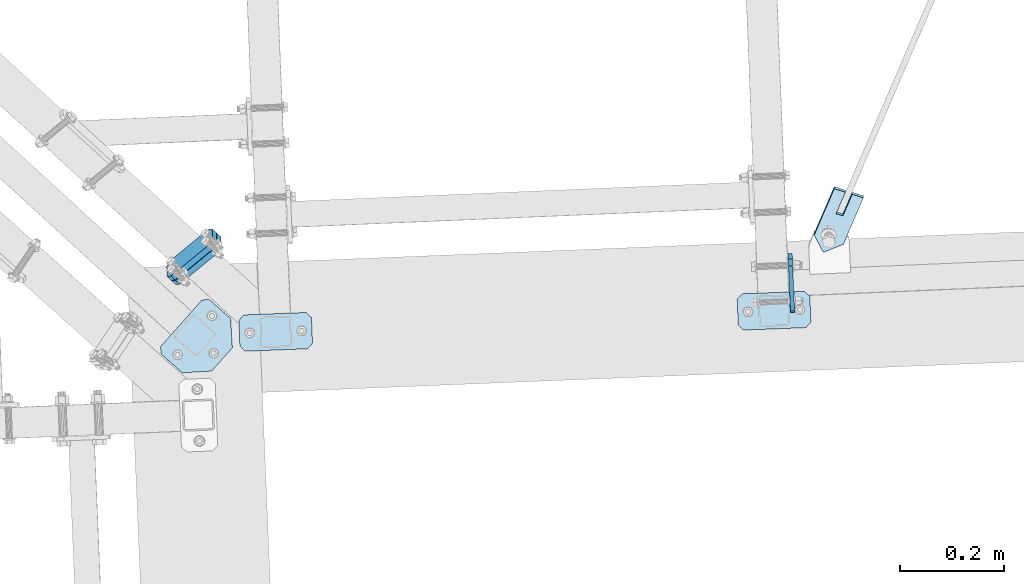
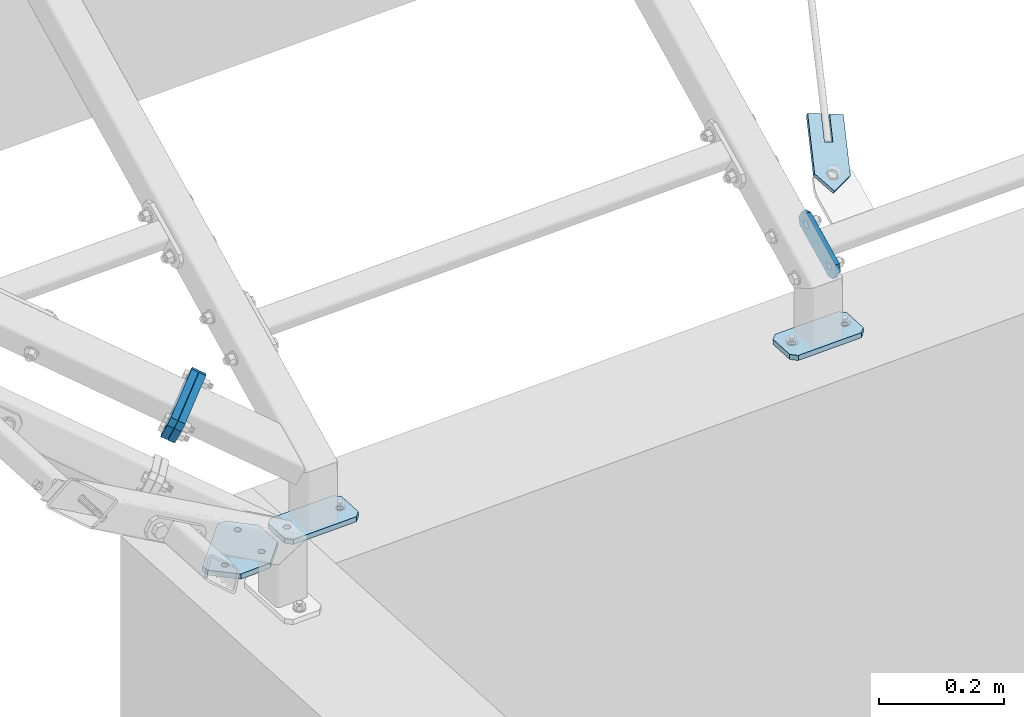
# One storey, part 53 of 288: 7 plates, 45 openings.
"""IFC2X3 building model written with IfcOpenShell, lengths in millimetres."""

from ifc_helpers import new_model, entity, si_unit, converted_unit, point, frame, frame_2d, origin, origin_with_axes, origin_2d_with_axis, place, context, project, spatial, polyline, circle_curve, line_curve, trimmed, segment, composite_curve, circle, outline, extrude, material, layer, layer_set, element, save


model = new_model("IFC2X3")

# Units and contexts
model_context = context("Model", 3, precision=1e-09, world=origin_with_axes())
ifc_project = project(units=[si_unit("LENGTHUNIT", "METRE", prefix="MILLI"), si_unit("AREAUNIT", "SQUARE_METRE"), si_unit("VOLUMEUNIT", "CUBIC_METRE"), converted_unit("PLANEANGLEUNIT", "DEGREE", entity("IfcPlaneAngleMeasure", 0.01745329), si_unit("PLANEANGLEUNIT", "RADIAN"), dimensions=[0, 0, 0, 0, 0, 0, 0])], contexts=[model_context])

# Site, building, storey
site_placement = place(None, origin_with_axes())
site = spatial("IfcSite", under=ifc_project, at=site_placement, Name="Remont ?wietlik?w nad MC w NCPP w Opolu", CompositionType="ELEMENT")
building_placement = place(site_placement, origin_with_axes())
building = spatial("IfcBuilding", under=site, at=building_placement, Name="Konstrukcja 1", CompositionType="ELEMENT")
storey_placement = place(building_placement, origin_with_axes())
storey = spatial("IfcBuildingStorey", under=building, at=storey_placement, Name="Default Storey", CompositionType="ELEMENT", Elevation=0.0)

# Plate, openings
ifc_material = material(Name="S235")
ifc_layer_1 = layer(ifc_material, 8.0)
ifc_layer_set_1 = layer_set([ifc_layer_1], Name="S235")
plate_1_placement = place(None, frame((2474.064790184, 13632.884868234, 93.301197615), z_axis=(-0.999102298, -0.042361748, 0.000284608), x_axis=(0.021561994, -0.502733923, 0.864172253)))
plate_1 = element("IfcPlate", 1, at=plate_1_placement, inside=storey, material=ifc_layer_set_1, Name="-", ObjectType="-", context=model_context, shape_type="SweptSolid", body=[
    extrude(outline(polyline([(0.0, 0.0), (40.0, 0.0), (40.0, 120.0), (0.0, 120.0), (0.0, 0.0)])), origin_with_axes(), (0.0, 0.0, 1.0), 8.0),
])
opening_1_placement = place(plate_1_placement, frame((0.0, 0.0, -0.01), z_axis=(0.0, 0.0, 1.0), x_axis=(1.0, 0.0, 0.0)))
element("IfcOpeningElement", 2, at=opening_1_placement, cuts=plate_1, ObjectType="Opening", context=model_context, shape_type="SweptSolid", body=[
    extrude(outline(composite_curve([segment(trimmed(line_curve((0.0, 0.0), (1.0, 0.0), 10.0), [point((0.0, 0.0))], [point((10.0, 0.0))], True, "CARTESIAN"), True, "CONTINUOUS"), segment(trimmed(circle_curve(frame_2d((10.0, 10.0), x_axis=(-1.0, 0.0)), 10.0), [point((10.0, 0.0))], [point((0.0, 10.0))], False, "CARTESIAN"), True, "CONTINUOUS"), segment(trimmed(line_curve((0.0, 10.0), (0.0, -1.0), 10.0), [point((0.0, 10.0))], [point((0.0, 0.0))], True, "CARTESIAN"), True, "CONTINUOUS")], self_intersect=False)), origin(), (0.0, 0.0, 1.0), 8.02),
])
opening_2_placement = place(plate_1_placement, frame((0.0, 0.0, -0.01), z_axis=(0.0, 0.0, 1.0), x_axis=(1.0, 0.0, 0.0)))
element("IfcOpeningElement", 3, at=opening_2_placement, cuts=plate_1, ObjectType="Opening", context=model_context, shape_type="SweptSolid", body=[
    extrude(outline(composite_curve([segment(trimmed(line_curve((40.0, 0.0), (0.0, 1.0), 10.0), [point((40.0, 0.0))], [point((40.0, 10.0))], True, "CARTESIAN"), True, "CONTINUOUS"), segment(trimmed(circle_curve(frame_2d((30.0, 10.0), x_axis=(-1.0, 0.0)), 10.0), [point((40.0, 10.0))], [point((30.0, 0.0))], False, "CARTESIAN"), True, "CONTINUOUS"), segment(trimmed(line_curve((30.0, 0.0), (1.0, 0.0), 10.0), [point((30.0, 0.0))], [point((40.0, 0.0))], True, "CARTESIAN"), True, "CONTINUOUS")], self_intersect=False)), origin(), (0.0, 0.0, 1.0), 8.02),
])
opening_3_placement = place(plate_1_placement, frame((0.0, 0.0, -0.01), z_axis=(0.0, 0.0, 1.0), x_axis=(1.0, 0.0, 0.0)))
element("IfcOpeningElement", 4, at=opening_3_placement, cuts=plate_1, ObjectType="Opening", context=model_context, shape_type="SweptSolid", body=[
    extrude(outline(composite_curve([segment(trimmed(line_curve((40.0, 120.0), (-1.0, 0.0), 10.0), [point((40.0, 120.0))], [point((30.0, 120.0))], True, "CARTESIAN"), True, "CONTINUOUS"), segment(trimmed(circle_curve(frame_2d((30.0, 110.0), x_axis=(-1.0, 0.0)), 10.0), [point((30.0, 120.0))], [point((40.0, 110.0))], False, "CARTESIAN"), True, "CONTINUOUS"), segment(trimmed(line_curve((40.0, 110.0), (0.0, 1.0), 10.0), [point((40.0, 110.0))], [point((40.0, 120.0))], True, "CARTESIAN"), True, "CONTINUOUS")], self_intersect=False)), origin(), (0.0, 0.0, 1.0), 8.02),
])
opening_4_placement = place(plate_1_placement, frame((0.0, 0.0, -0.01), z_axis=(0.0, 0.0, 1.0), x_axis=(1.0, 0.0, 0.0)))
element("IfcOpeningElement", 5, at=opening_4_placement, cuts=plate_1, ObjectType="Opening", context=model_context, shape_type="SweptSolid", body=[
    extrude(outline(composite_curve([segment(trimmed(line_curve((0.0, 120.0), (0.0, -1.0), 10.0), [point((0.0, 120.0))], [point((0.0, 110.0))], True, "CARTESIAN"), True, "CONTINUOUS"), segment(trimmed(circle_curve(frame_2d((10.0, 110.0), x_axis=(-1.0, 0.0)), 10.0), [point((0.0, 110.0))], [point((10.0, 120.0))], False, "CARTESIAN"), True, "CONTINUOUS"), segment(trimmed(line_curve((10.0, 120.0), (-1.0, 0.0), 10.0), [point((10.0, 120.0))], [point((0.0, 120.0))], True, "CARTESIAN"), True, "CONTINUOUS")], self_intersect=False)), origin(), (0.0, 0.0, 1.0), 8.02),
])
opening_5_placement = place(plate_1_placement, frame((20.0, 60.0, -0.5), z_axis=(0.0, 0.0, 1.0), x_axis=(1.0, 0.0, 0.0)))
element("IfcOpeningElement", 6, at=opening_5_placement, cuts=plate_1, ObjectType="Opening", context=model_context, shape_type="SweptSolid", body=[
    extrude(circle(Radius=7.001, at=frame_2d((0.0, 40.0), x_axis=(1.0, 0.0))), origin(), (0.0, 0.0, 1.0), 9.0),
])
opening_6_placement = place(plate_1_placement, frame((20.0, 60.0, -0.5), z_axis=(0.0, 0.0, 1.0), x_axis=(1.0, 0.0, 0.0)))
element("IfcOpeningElement", 7, at=opening_6_placement, cuts=plate_1, ObjectType="Opening", context=model_context, shape_type="SweptSolid", body=[
    extrude(circle(Radius=7.001, at=frame_2d((0.0, -40.0), x_axis=(1.0, 0.0))), origin(), (0.0, 0.0, 1.0), 9.0),
])

ifc_layer_2 = layer(ifc_material, 10.0)
ifc_layer_set_2 = layer_set([ifc_layer_2], Name="S235")
plate_2_placement = place(None, frame((1247.386247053, 13544.864883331, 9.813997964), z_axis=(0.00176286, 0.001987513, -0.999996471), x_axis=(0.663558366, 0.748119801, 0.002656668)))
plate_2 = element("IfcPlate", 8, at=plate_2_placement, inside=storey, material=ifc_layer_set_2, Name="Baseplate", ObjectType="Baseplate", context=model_context, shape_type="SweptSolid", body=[
    extrude(outline(polyline([(0.0, 0.0), (140.0, 0.0), (140.0, 105.0), (0.0, 105.0), (0.0, 0.0)])), origin_with_axes(), (0.0, 0.0, 1.0), 10.0),
])
opening_7_placement = place(plate_2_placement, frame((0.0, 0.0, -0.01), z_axis=(0.0, 0.0, 1.0), x_axis=(1.0, 0.0, 0.0)))
element("IfcOpeningElement", 9, at=opening_7_placement, cuts=plate_2, ObjectType="Opening", context=model_context, shape_type="SweptSolid", body=[
    extrude(outline(composite_curve([segment(trimmed(line_curve((0.0, 0.0), (1.0, 0.0), 10.0), [point((0.0, 0.0))], [point((10.0, 0.0))], True, "CARTESIAN"), True, "CONTINUOUS"), segment(trimmed(circle_curve(frame_2d((10.0, 10.0), x_axis=(-1.0, 0.0)), 10.0), [point((10.0, 0.0))], [point((0.0, 10.0))], False, "CARTESIAN"), True, "CONTINUOUS"), segment(trimmed(line_curve((0.0, 10.0), (0.0, -1.0), 10.0), [point((0.0, 10.0))], [point((0.0, 0.0))], True, "CARTESIAN"), True, "CONTINUOUS")], self_intersect=False)), origin(), (0.0, 0.0, 1.0), 10.02),
])
opening_8_placement = place(plate_2_placement, frame((0.0, 0.0, -0.01), z_axis=(0.0, 0.0, 1.0), x_axis=(1.0, 0.0, 0.0)))
element("IfcOpeningElement", 10, at=opening_8_placement, cuts=plate_2, ObjectType="Opening", context=model_context, shape_type="SweptSolid", body=[
    extrude(outline(composite_curve([segment(trimmed(line_curve((140.0, 0.0), (0.0, 1.0), 10.0), [point((140.0, 0.0))], [point((140.0, 10.0))], True, "CARTESIAN"), True, "CONTINUOUS"), segment(trimmed(circle_curve(frame_2d((130.0, 10.0), x_axis=(-1.0, 0.0)), 10.0), [point((140.0, 10.0))], [point((130.0, 0.0))], False, "CARTESIAN"), True, "CONTINUOUS"), segment(trimmed(line_curve((130.0, 0.0), (1.0, 0.0), 10.0), [point((130.0, 0.0))], [point((140.0, 0.0))], True, "CARTESIAN"), True, "CONTINUOUS")], self_intersect=False)), origin(), (0.0, 0.0, 1.0), 10.02),
])
opening_9_placement = place(plate_2_placement, frame((0.0, 0.0, -0.01), z_axis=(0.0, 0.0, 1.0), x_axis=(1.0, 0.0, 0.0)))
element("IfcOpeningElement", 11, at=opening_9_placement, cuts=plate_2, ObjectType="Opening", context=model_context, shape_type="SweptSolid", body=[
    extrude(outline(polyline([(140.0, 105.0), (100.0, 105.0), (140.0, 65.0), (140.0, 105.0)])), origin(), (0.0, 0.0, 1.0), 10.02),
])
opening_10_placement = place(plate_2_placement, frame((0.0, 0.0, -0.01), z_axis=(0.0, 0.0, 1.0), x_axis=(1.0, 0.0, 0.0)))
element("IfcOpeningElement", 12, at=opening_10_placement, cuts=plate_2, ObjectType="Opening", context=model_context, shape_type="SweptSolid", body=[
    extrude(outline(polyline([(0.0, 105.0), (0.0, 65.0), (40.0, 105.0), (0.0, 105.0)])), origin(), (0.0, 0.0, 1.0), 10.02),
])
opening_11_placement = place(plate_2_placement, frame((68.157647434, 85.0, 10.548510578), z_axis=(0.002656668, 0.0, -0.999996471), x_axis=(0.663558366, 0.748122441, 0.00176286)))
element("IfcOpeningElement", 13, at=opening_11_placement, cuts=plate_2, ObjectType="Opening", context=model_context, shape_type="SweptSolid", body=[
    extrude(circle(Radius=6.001, at=origin_2d_with_axis()), origin(), (0.0, 0.0, 1.0), 11.095675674),
])
opening_12_placement = place(plate_2_placement, frame((120.0, 35.0, 10.5), z_axis=(0.0, 0.0, -1.0), x_axis=(1.0, 0.0, 0.0)))
element("IfcOpeningElement", 14, at=opening_12_placement, cuts=plate_2, ObjectType="Opening", context=model_context, shape_type="SweptSolid", body=[
    extrude(circle(Radius=6.001, at=origin_2d_with_axis()), origin(), (0.0, 0.0, 1.0), 11.0),
])
opening_13_placement = place(plate_2_placement, frame((20.0, 35.0, 10.5), z_axis=(0.0, 0.0, -1.0), x_axis=(1.0, 0.0, 0.0)))
element("IfcOpeningElement", 15, at=opening_13_placement, cuts=plate_2, ObjectType="Opening", context=model_context, shape_type="SweptSolid", body=[
    extrude(circle(Radius=6.001, at=origin_2d_with_axis()), origin(), (0.0, 0.0, 1.0), 11.0),
])

plate_3_placement = place(None, frame((1544.193656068, 13618.355817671, 10.000859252), z_axis=(0.0, 0.0, -1.0), x_axis=(0.039392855, -0.9992238, 0.0)))
plate_3 = element("IfcPlate", 16, at=plate_3_placement, inside=storey, material=ifc_layer_set_2, Name="Baseplate", ObjectType="Baseplate", context=model_context, shape_type="SweptSolid", body=[
    extrude(outline(polyline([(0.0, 0.0), (70.0, 0.0), (70.0, 140.0), (0.0, 140.0), (0.0, 0.0)])), origin_with_axes(), (0.0, 0.0, 1.0), 10.0),
])
opening_14_placement = place(plate_3_placement, frame((0.0, 0.0, -0.01), z_axis=(0.0, 0.0, 1.0), x_axis=(1.0, 0.0, 0.0)))
element("IfcOpeningElement", 17, at=opening_14_placement, cuts=plate_3, ObjectType="Opening", context=model_context, shape_type="SweptSolid", body=[
    extrude(outline(composite_curve([segment(trimmed(line_curve((0.0, 140.0), (0.0, -1.0), 10.0), [point((0.0, 140.0))], [point((0.0, 130.0))], True, "CARTESIAN"), True, "CONTINUOUS"), segment(trimmed(circle_curve(frame_2d((10.0, 130.0), x_axis=(-1.0, 0.0)), 10.0), [point((0.0, 130.0))], [point((10.0, 140.0))], False, "CARTESIAN"), True, "CONTINUOUS"), segment(trimmed(line_curve((10.0, 140.0), (-1.0, 0.0), 10.0), [point((10.0, 140.0))], [point((0.0, 140.0))], True, "CARTESIAN"), True, "CONTINUOUS")], self_intersect=False)), origin(), (0.0, 0.0, 1.0), 10.02),
])
opening_15_placement = place(plate_3_placement, frame((0.0, 0.0, -0.01), z_axis=(0.0, 0.0, 1.0), x_axis=(1.0, 0.0, 0.0)))
element("IfcOpeningElement", 18, at=opening_15_placement, cuts=plate_3, ObjectType="Opening", context=model_context, shape_type="SweptSolid", body=[
    extrude(outline(composite_curve([segment(trimmed(line_curve((70.0, 140.0), (-1.0, 0.0), 10.0), [point((70.0, 140.0))], [point((60.0, 140.0))], True, "CARTESIAN"), True, "CONTINUOUS"), segment(trimmed(circle_curve(frame_2d((60.0, 130.0), x_axis=(-1.0, 0.0)), 10.0), [point((60.0, 140.0))], [point((70.0, 130.0))], False, "CARTESIAN"), True, "CONTINUOUS"), segment(trimmed(line_curve((70.0, 130.0), (0.0, 1.0), 10.0), [point((70.0, 130.0))], [point((70.0, 140.0))], True, "CARTESIAN"), True, "CONTINUOUS")], self_intersect=False)), origin(), (0.0, 0.0, 1.0), 10.02),
])
opening_16_placement = place(plate_3_placement, frame((0.0, 0.0, -0.01), z_axis=(0.0, 0.0, 1.0), x_axis=(1.0, 0.0, 0.0)))
element("IfcOpeningElement", 19, at=opening_16_placement, cuts=plate_3, ObjectType="Opening", context=model_context, shape_type="SweptSolid", body=[
    extrude(outline(composite_curve([segment(trimmed(line_curve((0.0, 0.0), (1.0, 0.0), 10.0), [point((0.0, 0.0))], [point((10.0, 0.0))], True, "CARTESIAN"), True, "CONTINUOUS"), segment(trimmed(circle_curve(frame_2d((10.0, 10.0), x_axis=(-1.0, 0.0)), 10.0), [point((10.0, 0.0))], [point((0.0, 10.0))], False, "CARTESIAN"), True, "CONTINUOUS"), segment(trimmed(line_curve((0.0, 10.0), (0.0, -1.0), 10.0), [point((0.0, 10.0))], [point((0.0, 0.0))], True, "CARTESIAN"), True, "CONTINUOUS")], self_intersect=False)), origin(), (0.0, 0.0, 1.0), 10.02),
])
opening_17_placement = place(plate_3_placement, frame((0.0, 0.0, -0.01), z_axis=(0.0, 0.0, 1.0), x_axis=(1.0, 0.0, 0.0)))
element("IfcOpeningElement", 20, at=opening_17_placement, cuts=plate_3, ObjectType="Opening", context=model_context, shape_type="SweptSolid", body=[
    extrude(outline(composite_curve([segment(trimmed(line_curve((70.0, 0.0), (0.0, 1.0), 10.0), [point((70.0, 0.0))], [point((70.0, 10.0))], True, "CARTESIAN"), True, "CONTINUOUS"), segment(trimmed(circle_curve(frame_2d((60.0, 10.0), x_axis=(-1.0, 0.0)), 10.0), [point((70.0, 10.0))], [point((60.0, 0.0))], False, "CARTESIAN"), True, "CONTINUOUS"), segment(trimmed(line_curve((60.0, 0.0), (1.0, 0.0), 10.0), [point((60.0, 0.0))], [point((70.0, 0.0))], True, "CARTESIAN"), True, "CONTINUOUS")], self_intersect=False)), origin(), (0.0, 0.0, 1.0), 10.02),
])
opening_18_placement = place(plate_3_placement, frame((35.0, 20.0, 10.5), z_axis=(0.0, 0.0, -1.0), x_axis=(1.0, 0.0, 0.0)))
element("IfcOpeningElement", 21, at=opening_18_placement, cuts=plate_3, ObjectType="Opening", context=model_context, shape_type="SweptSolid", body=[
    extrude(circle(Radius=6.001, at=origin_2d_with_axis()), origin(), (0.0, 0.0, 1.0), 11.0),
])
opening_19_placement = place(plate_3_placement, frame((35.0, 120.0, 10.5), z_axis=(0.0, 0.0, -1.0), x_axis=(1.0, 0.0, 0.0)))
element("IfcOpeningElement", 22, at=opening_19_placement, cuts=plate_3, ObjectType="Opening", context=model_context, shape_type="SweptSolid", body=[
    extrude(circle(Radius=6.001, at=origin_2d_with_axis()), origin(), (0.0, 0.0, 1.0), 11.0),
])

ifc_layer_3 = layer(ifc_material, 12.0)
ifc_layer_set_3 = layer_set([ifc_layer_3], Name="S235")
plate_4_placement = place(None, frame((1362.051817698, 13775.857111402, 190.990681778), z_axis=(0.683021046, -0.624623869, -0.378585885), x_axis=(0.020364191, -0.501840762, 0.864720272)))
plate_4 = element("IfcPlate", 23, at=plate_4_placement, inside=storey, material=ifc_layer_set_3, Name="Endplate#1", ObjectType="Endplate#1", context=model_context, shape_type="SweptSolid", body=[
    extrude(outline(polyline([(0.0, 0.0), (60.0, 0.0), (60.0, 120.0), (0.0, 120.0), (0.0, 0.0)])), origin_with_axes(), (0.0, 0.0, 1.0), 12.0),
])
opening_20_placement = place(plate_4_placement, frame((15.0, 60.0, 12.5), z_axis=(0.0, 0.0, -1.0), x_axis=(1.0, 0.0, 0.0)))
element("IfcOpeningElement", 24, at=opening_20_placement, cuts=plate_4, ObjectType="Opening", context=model_context, shape_type="SweptSolid", body=[
    extrude(circle(Radius=6.001, at=frame_2d((0.0, 45.0), x_axis=(1.0, 0.0))), origin(), (0.0, 0.0, 1.0), 13.0),
])
opening_21_placement = place(plate_4_placement, frame((15.0, 60.0, 12.5), z_axis=(0.0, 0.0, -1.0), x_axis=(1.0, 0.0, 0.0)))
element("IfcOpeningElement", 25, at=opening_21_placement, cuts=plate_4, ObjectType="Opening", context=model_context, shape_type="SweptSolid", body=[
    extrude(circle(Radius=6.001, at=frame_2d((0.0, -45.0), x_axis=(1.0, 0.0))), origin(), (0.0, 0.0, 1.0), 13.0),
])
opening_22_placement = place(plate_4_placement, frame((45.0, 60.0, 12.5), z_axis=(0.0, 0.0, -1.0), x_axis=(1.0, 0.0, 0.0)))
element("IfcOpeningElement", 26, at=opening_22_placement, cuts=plate_4, ObjectType="Opening", context=model_context, shape_type="SweptSolid", body=[
    extrude(circle(Radius=6.001, at=frame_2d((0.0, 45.0), x_axis=(1.0, 0.0))), origin(), (0.0, 0.0, 1.0), 13.0),
])
opening_23_placement = place(plate_4_placement, frame((45.0, 60.0, 12.5), z_axis=(0.0, 0.0, -1.0), x_axis=(1.0, 0.0, 0.0)))
element("IfcOpeningElement", 27, at=opening_23_placement, cuts=plate_4, ObjectType="Opening", context=model_context, shape_type="SweptSolid", body=[
    extrude(circle(Radius=6.001, at=frame_2d((0.0, -45.0), x_axis=(1.0, 0.0))), origin(), (0.0, 0.0, 1.0), 13.0),
])
opening_24_placement = place(plate_4_placement, frame((0.0, 0.0, -0.01), z_axis=(0.0, 0.0, 1.0), x_axis=(1.0, 0.0, 0.0)))
element("IfcOpeningElement", 28, at=opening_24_placement, cuts=plate_4, ObjectType="Opening", context=model_context, shape_type="SweptSolid", body=[
    extrude(outline(composite_curve([segment(trimmed(line_curve((60.0, 0.0), (0.0, 1.0), 10.0), [point((60.0, 0.0))], [point((60.0, 10.0))], True, "CARTESIAN"), True, "CONTINUOUS"), segment(trimmed(circle_curve(frame_2d((50.0, 10.0), x_axis=(-1.0, 0.0)), 10.0), [point((60.0, 10.0))], [point((50.0, 0.0))], False, "CARTESIAN"), True, "CONTINUOUS"), segment(trimmed(line_curve((50.0, 0.0), (1.0, 0.0), 10.0), [point((50.0, 0.0))], [point((60.0, 0.0))], True, "CARTESIAN"), True, "CONTINUOUS")], self_intersect=False)), origin(), (0.0, 0.0, 1.0), 12.02),
])
opening_25_placement = place(plate_4_placement, frame((0.0, 0.0, -0.01), z_axis=(0.0, 0.0, 1.0), x_axis=(1.0, 0.0, 0.0)))
element("IfcOpeningElement", 29, at=opening_25_placement, cuts=plate_4, ObjectType="Opening", context=model_context, shape_type="SweptSolid", body=[
    extrude(outline(composite_curve([segment(trimmed(line_curve((0.0, 0.0), (1.0, 0.0), 10.0), [point((0.0, 0.0))], [point((10.0, 0.0))], True, "CARTESIAN"), True, "CONTINUOUS"), segment(trimmed(circle_curve(frame_2d((10.0, 10.0), x_axis=(-1.0, 0.0)), 10.0), [point((10.0, 0.0))], [point((0.0, 10.0))], False, "CARTESIAN"), True, "CONTINUOUS"), segment(trimmed(line_curve((0.0, 10.0), (0.0, -1.0), 10.0), [point((0.0, 10.0))], [point((0.0, 0.0))], True, "CARTESIAN"), True, "CONTINUOUS")], self_intersect=False)), origin(), (0.0, 0.0, 1.0), 12.02),
])
opening_26_placement = place(plate_4_placement, frame((0.0, 0.0, -0.01), z_axis=(0.0, 0.0, 1.0), x_axis=(1.0, 0.0, 0.0)))
element("IfcOpeningElement", 30, at=opening_26_placement, cuts=plate_4, ObjectType="Opening", context=model_context, shape_type="SweptSolid", body=[
    extrude(outline(composite_curve([segment(trimmed(line_curve((60.0, 120.0), (-1.0, 0.0), 10.0), [point((60.0, 120.0))], [point((50.0, 120.0))], True, "CARTESIAN"), True, "CONTINUOUS"), segment(trimmed(circle_curve(frame_2d((50.0, 110.0), x_axis=(-1.0, 0.0)), 10.0), [point((50.0, 120.0))], [point((60.0, 110.0))], False, "CARTESIAN"), True, "CONTINUOUS"), segment(trimmed(line_curve((60.0, 110.0), (0.0, 1.0), 10.0), [point((60.0, 110.0))], [point((60.0, 120.0))], True, "CARTESIAN"), True, "CONTINUOUS")], self_intersect=False)), origin(), (0.0, 0.0, 1.0), 12.02),
])
opening_27_placement = place(plate_4_placement, frame((0.0, 0.0, -0.01), z_axis=(0.0, 0.0, 1.0), x_axis=(1.0, 0.0, 0.0)))
element("IfcOpeningElement", 31, at=opening_27_placement, cuts=plate_4, ObjectType="Opening", context=model_context, shape_type="SweptSolid", body=[
    extrude(outline(composite_curve([segment(trimmed(line_curve((0.0, 120.0), (0.0, -1.0), 10.0), [point((0.0, 120.0))], [point((0.0, 110.0))], True, "CARTESIAN"), True, "CONTINUOUS"), segment(trimmed(circle_curve(frame_2d((10.0, 110.0), x_axis=(-1.0, 0.0)), 10.0), [point((0.0, 110.0))], [point((10.0, 120.0))], False, "CARTESIAN"), True, "CONTINUOUS"), segment(trimmed(line_curve((10.0, 120.0), (-1.0, 0.0), 10.0), [point((10.0, 120.0))], [point((0.0, 120.0))], True, "CARTESIAN"), True, "CONTINUOUS")], self_intersect=False)), origin(), (0.0, 0.0, 1.0), 12.02),
])

plate_5_placement = place(None, frame((1353.172544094, 13783.977221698, 195.912298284), z_axis=(0.683021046, -0.624623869, -0.378585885), x_axis=(0.020364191, -0.501840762, 0.864720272)))
plate_5 = element("IfcPlate", 32, at=plate_5_placement, inside=storey, material=ifc_layer_set_3, Name="Endplate#2", ObjectType="Endplate#2", context=model_context, shape_type="SweptSolid", body=[
    extrude(outline(polyline([(0.0, 0.0), (60.0, 0.0), (60.0, 120.0), (0.0, 120.0), (0.0, 0.0)])), origin_with_axes(), (0.0, 0.0, 1.0), 12.0),
])
opening_28_placement = place(plate_5_placement, frame((15.0, 60.0, 12.5), z_axis=(0.0, 0.0, -1.0), x_axis=(1.0, 0.0, 0.0)))
element("IfcOpeningElement", 33, at=opening_28_placement, cuts=plate_5, ObjectType="Opening", context=model_context, shape_type="SweptSolid", body=[
    extrude(circle(Radius=6.001, at=frame_2d((0.0, 45.0), x_axis=(1.0, 0.0))), origin(), (0.0, 0.0, 1.0), 13.0),
])
opening_29_placement = place(plate_5_placement, frame((15.0, 60.0, 12.5), z_axis=(0.0, 0.0, -1.0), x_axis=(1.0, 0.0, 0.0)))
element("IfcOpeningElement", 34, at=opening_29_placement, cuts=plate_5, ObjectType="Opening", context=model_context, shape_type="SweptSolid", body=[
    extrude(circle(Radius=6.001, at=frame_2d((0.0, -45.0), x_axis=(1.0, 0.0))), origin(), (0.0, 0.0, 1.0), 13.0),
])
opening_30_placement = place(plate_5_placement, frame((45.0, 60.0, 12.5), z_axis=(0.0, 0.0, -1.0), x_axis=(1.0, 0.0, 0.0)))
element("IfcOpeningElement", 35, at=opening_30_placement, cuts=plate_5, ObjectType="Opening", context=model_context, shape_type="SweptSolid", body=[
    extrude(circle(Radius=6.001, at=frame_2d((0.0, 45.0), x_axis=(1.0, 0.0))), origin(), (0.0, 0.0, 1.0), 13.0),
])
opening_31_placement = place(plate_5_placement, frame((45.0, 60.0, 12.5), z_axis=(0.0, 0.0, -1.0), x_axis=(1.0, 0.0, 0.0)))
element("IfcOpeningElement", 36, at=opening_31_placement, cuts=plate_5, ObjectType="Opening", context=model_context, shape_type="SweptSolid", body=[
    extrude(circle(Radius=6.001, at=frame_2d((0.0, -45.0), x_axis=(1.0, 0.0))), origin(), (0.0, 0.0, 1.0), 13.0),
])
opening_32_placement = place(plate_5_placement, frame((0.0, 0.0, -0.01), z_axis=(0.0, 0.0, 1.0), x_axis=(1.0, 0.0, 0.0)))
element("IfcOpeningElement", 37, at=opening_32_placement, cuts=plate_5, ObjectType="Opening", context=model_context, shape_type="SweptSolid", body=[
    extrude(outline(composite_curve([segment(trimmed(line_curve((60.0, 0.0), (0.0, 1.0), 10.0), [point((60.0, 0.0))], [point((60.0, 10.0))], True, "CARTESIAN"), True, "CONTINUOUS"), segment(trimmed(circle_curve(frame_2d((50.0, 10.0), x_axis=(-1.0, 0.0)), 10.0), [point((60.0, 10.0))], [point((50.0, 0.0))], False, "CARTESIAN"), True, "CONTINUOUS"), segment(trimmed(line_curve((50.0, 0.0), (1.0, 0.0), 10.0), [point((50.0, 0.0))], [point((60.0, 0.0))], True, "CARTESIAN"), True, "CONTINUOUS")], self_intersect=False)), origin(), (0.0, 0.0, 1.0), 12.02),
])
opening_33_placement = place(plate_5_placement, frame((0.0, 0.0, -0.01), z_axis=(0.0, 0.0, 1.0), x_axis=(1.0, 0.0, 0.0)))
element("IfcOpeningElement", 38, at=opening_33_placement, cuts=plate_5, ObjectType="Opening", context=model_context, shape_type="SweptSolid", body=[
    extrude(outline(composite_curve([segment(trimmed(line_curve((0.0, 0.0), (1.0, 0.0), 10.0), [point((0.0, 0.0))], [point((10.0, 0.0))], True, "CARTESIAN"), True, "CONTINUOUS"), segment(trimmed(circle_curve(frame_2d((10.0, 10.0), x_axis=(-1.0, 0.0)), 10.0), [point((10.0, 0.0))], [point((0.0, 10.0))], False, "CARTESIAN"), True, "CONTINUOUS"), segment(trimmed(line_curve((0.0, 10.0), (0.0, -1.0), 10.0), [point((0.0, 10.0))], [point((0.0, 0.0))], True, "CARTESIAN"), True, "CONTINUOUS")], self_intersect=False)), origin(), (0.0, 0.0, 1.0), 12.02),
])
opening_34_placement = place(plate_5_placement, frame((0.0, 0.0, -0.01), z_axis=(0.0, 0.0, 1.0), x_axis=(1.0, 0.0, 0.0)))
element("IfcOpeningElement", 39, at=opening_34_placement, cuts=plate_5, ObjectType="Opening", context=model_context, shape_type="SweptSolid", body=[
    extrude(outline(composite_curve([segment(trimmed(line_curve((60.0, 120.0), (-1.0, 0.0), 10.0), [point((60.0, 120.0))], [point((50.0, 120.0))], True, "CARTESIAN"), True, "CONTINUOUS"), segment(trimmed(circle_curve(frame_2d((50.0, 110.0), x_axis=(-1.0, 0.0)), 10.0), [point((50.0, 120.0))], [point((60.0, 110.0))], False, "CARTESIAN"), True, "CONTINUOUS"), segment(trimmed(line_curve((60.0, 110.0), (0.0, 1.0), 10.0), [point((60.0, 110.0))], [point((60.0, 120.0))], True, "CARTESIAN"), True, "CONTINUOUS")], self_intersect=False)), origin(), (0.0, 0.0, 1.0), 12.02),
])
opening_35_placement = place(plate_5_placement, frame((0.0, 0.0, -0.01), z_axis=(0.0, 0.0, 1.0), x_axis=(1.0, 0.0, 0.0)))
element("IfcOpeningElement", 40, at=opening_35_placement, cuts=plate_5, ObjectType="Opening", context=model_context, shape_type="SweptSolid", body=[
    extrude(outline(composite_curve([segment(trimmed(line_curve((0.0, 120.0), (0.0, -1.0), 10.0), [point((0.0, 120.0))], [point((0.0, 110.0))], True, "CARTESIAN"), True, "CONTINUOUS"), segment(trimmed(circle_curve(frame_2d((10.0, 110.0), x_axis=(-1.0, 0.0)), 10.0), [point((0.0, 110.0))], [point((10.0, 120.0))], False, "CARTESIAN"), True, "CONTINUOUS"), segment(trimmed(line_curve((10.0, 120.0), (-1.0, 0.0), 10.0), [point((10.0, 120.0))], [point((0.0, 120.0))], True, "CARTESIAN"), True, "CONTINUOUS")], self_intersect=False)), origin(), (0.0, 0.0, 1.0), 12.02),
])

plate_6_placement = place(None, frame((2503.592333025, 13659.034140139, 10.000000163), z_axis=(0.0, 0.0, -1.0), x_axis=(0.039392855, -0.9992238, 0.0)))
plate_6 = element("IfcPlate", 41, at=plate_6_placement, inside=storey, material=ifc_layer_set_2, Name="Baseplate", ObjectType="Baseplate", context=model_context, shape_type="SweptSolid", body=[
    extrude(outline(polyline([(0.0, 0.0), (70.0, 0.0), (70.0, 140.0), (0.0, 140.0), (0.0, 0.0)])), origin_with_axes(), (0.0, 0.0, 1.0), 10.0),
])
opening_36_placement = place(plate_6_placement, frame((0.0, 0.0, -0.01), z_axis=(0.0, 0.0, 1.0), x_axis=(1.0, 0.0, 0.0)))
element("IfcOpeningElement", 42, at=opening_36_placement, cuts=plate_6, ObjectType="Opening", context=model_context, shape_type="SweptSolid", body=[
    extrude(outline(composite_curve([segment(trimmed(line_curve((0.0, 140.0), (0.0, -1.0), 10.0), [point((0.0, 140.0))], [point((0.0, 130.0))], True, "CARTESIAN"), True, "CONTINUOUS"), segment(trimmed(circle_curve(frame_2d((10.0, 130.0), x_axis=(-1.0, 0.0)), 10.0), [point((0.0, 130.0))], [point((10.0, 140.0))], False, "CARTESIAN"), True, "CONTINUOUS"), segment(trimmed(line_curve((10.0, 140.0), (-1.0, 0.0), 10.0), [point((10.0, 140.0))], [point((0.0, 140.0))], True, "CARTESIAN"), True, "CONTINUOUS")], self_intersect=False)), origin(), (0.0, 0.0, 1.0), 10.02),
])
opening_37_placement = place(plate_6_placement, frame((0.0, 0.0, -0.01), z_axis=(0.0, 0.0, 1.0), x_axis=(1.0, 0.0, 0.0)))
element("IfcOpeningElement", 43, at=opening_37_placement, cuts=plate_6, ObjectType="Opening", context=model_context, shape_type="SweptSolid", body=[
    extrude(outline(composite_curve([segment(trimmed(line_curve((70.0, 140.0), (-1.0, 0.0), 10.0), [point((70.0, 140.0))], [point((60.0, 140.0))], True, "CARTESIAN"), True, "CONTINUOUS"), segment(trimmed(circle_curve(frame_2d((60.0, 130.0), x_axis=(-1.0, 0.0)), 10.0), [point((60.0, 140.0))], [point((70.0, 130.0))], False, "CARTESIAN"), True, "CONTINUOUS"), segment(trimmed(line_curve((70.0, 130.0), (0.0, 1.0), 10.0), [point((70.0, 130.0))], [point((70.0, 140.0))], True, "CARTESIAN"), True, "CONTINUOUS")], self_intersect=False)), origin(), (0.0, 0.0, 1.0), 10.02),
])
opening_38_placement = place(plate_6_placement, frame((0.0, 0.0, -0.01), z_axis=(0.0, 0.0, 1.0), x_axis=(1.0, 0.0, 0.0)))
element("IfcOpeningElement", 44, at=opening_38_placement, cuts=plate_6, ObjectType="Opening", context=model_context, shape_type="SweptSolid", body=[
    extrude(outline(composite_curve([segment(trimmed(line_curve((0.0, 0.0), (1.0, 0.0), 10.0), [point((0.0, 0.0))], [point((10.0, 0.0))], True, "CARTESIAN"), True, "CONTINUOUS"), segment(trimmed(circle_curve(frame_2d((10.0, 10.0), x_axis=(-1.0, 0.0)), 10.0), [point((10.0, 0.0))], [point((0.0, 10.0))], False, "CARTESIAN"), True, "CONTINUOUS"), segment(trimmed(line_curve((0.0, 10.0), (0.0, -1.0), 10.0), [point((0.0, 10.0))], [point((0.0, 0.0))], True, "CARTESIAN"), True, "CONTINUOUS")], self_intersect=False)), origin(), (0.0, 0.0, 1.0), 10.02),
])
opening_39_placement = place(plate_6_placement, frame((0.0, 0.0, -0.01), z_axis=(0.0, 0.0, 1.0), x_axis=(1.0, 0.0, 0.0)))
element("IfcOpeningElement", 45, at=opening_39_placement, cuts=plate_6, ObjectType="Opening", context=model_context, shape_type="SweptSolid", body=[
    extrude(outline(composite_curve([segment(trimmed(line_curve((70.0, 0.0), (0.0, 1.0), 10.0), [point((70.0, 0.0))], [point((70.0, 10.0))], True, "CARTESIAN"), True, "CONTINUOUS"), segment(trimmed(circle_curve(frame_2d((60.0, 10.0), x_axis=(-1.0, 0.0)), 10.0), [point((70.0, 10.0))], [point((60.0, 0.0))], False, "CARTESIAN"), True, "CONTINUOUS"), segment(trimmed(line_curve((60.0, 0.0), (1.0, 0.0), 10.0), [point((60.0, 0.0))], [point((70.0, 0.0))], True, "CARTESIAN"), True, "CONTINUOUS")], self_intersect=False)), origin(), (0.0, 0.0, 1.0), 10.02),
])
opening_40_placement = place(plate_6_placement, frame((35.0, 20.0, 10.5), z_axis=(0.0, 0.0, -1.0), x_axis=(1.0, 0.0, 0.0)))
element("IfcOpeningElement", 46, at=opening_40_placement, cuts=plate_6, ObjectType="Opening", context=model_context, shape_type="SweptSolid", body=[
    extrude(circle(Radius=6.001, at=origin_2d_with_axis()), origin(), (0.0, 0.0, 1.0), 11.0),
])
opening_41_placement = place(plate_6_placement, frame((35.0, 120.0, 10.5), z_axis=(0.0, 0.0, -1.0), x_axis=(1.0, 0.0, 0.0)))
element("IfcOpeningElement", 47, at=opening_41_placement, cuts=plate_6, ObjectType="Opening", context=model_context, shape_type="SweptSolid", body=[
    extrude(circle(Radius=6.001, at=origin_2d_with_axis()), origin(), (0.0, 0.0, 1.0), 11.0),
])

plate_7_placement = place(None, frame((2550.906629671, 13856.215202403, 258.559287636), z_axis=(-0.021594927, 0.503513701, -0.863717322), x_axis=(0.936472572, -0.292319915, -0.19382515)))
plate_7 = element("IfcPlate", 48, at=plate_7_placement, inside=storey, material=ifc_layer_set_1, Name="Tab_Plate#1", ObjectType="Tab_Plate#1", context=model_context, shape_type="SweptSolid", body=[
    extrude(outline(polyline([(0.0, 0.0), (60.0, 0.0), (60.0, 140.0), (0.0, 140.0), (0.0, 0.0)])), origin_with_axes(), (0.0, 0.0, 1.0), 8.0),
])
opening_42_placement = place(plate_7_placement, frame((0.0, 0.0, -0.01), z_axis=(0.0, 0.0, 1.0), x_axis=(1.0, 0.0, 0.0)))
element("IfcOpeningElement", 49, at=opening_42_placement, cuts=plate_7, ObjectType="Opening", context=model_context, shape_type="SweptSolid", body=[
    extrude(outline(composite_curve([segment(trimmed(line_curve((60.0, 140.0), (-1.0, 0.0), 30.0), [point((60.0, 140.0))], [point((30.0, 140.0))], True, "CARTESIAN"), True, "CONTINUOUS"), segment(trimmed(circle_curve(frame_2d((30.0, 110.0), x_axis=(-1.0, 0.0)), 30.0), [point((30.0, 140.0))], [point((60.0, 110.0))], False, "CARTESIAN"), True, "CONTINUOUS"), segment(trimmed(line_curve((60.0, 110.0), (0.0, 1.0), 30.0), [point((60.0, 110.0))], [point((60.0, 140.0))], True, "CARTESIAN"), True, "CONTINUOUS")], self_intersect=False)), origin(), (0.0, 0.0, 1.0), 8.02),
])
opening_43_placement = place(plate_7_placement, frame((0.0, 0.0, -0.01), z_axis=(0.0, 0.0, 1.0), x_axis=(1.0, 0.0, 0.0)))
element("IfcOpeningElement", 50, at=opening_43_placement, cuts=plate_7, ObjectType="Opening", context=model_context, shape_type="SweptSolid", body=[
    extrude(outline(composite_curve([segment(trimmed(line_curve((0.0, 140.0), (0.0, -1.0), 30.0), [point((0.0, 140.0))], [point((0.0, 110.0))], True, "CARTESIAN"), True, "CONTINUOUS"), segment(trimmed(circle_curve(frame_2d((30.0, 110.0), x_axis=(-1.0, 0.0)), 30.0), [point((0.0, 110.0))], [point((30.0, 140.0))], False, "CARTESIAN"), True, "CONTINUOUS"), segment(trimmed(line_curve((30.0, 140.0), (-1.0, 0.0), 30.0), [point((30.0, 140.0))], [point((0.0, 140.0))], True, "CARTESIAN"), True, "CONTINUOUS")], self_intersect=False)), origin(), (0.0, 0.0, 1.0), 8.02),
])
opening_44_placement = place(plate_7_placement, frame((0.0, 0.0, 8.1), z_axis=(0.0, 0.0, -1.0), x_axis=(0.923086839, -0.384591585, 0.0)))
element("IfcOpeningElement", 51, at=opening_44_placement, cuts=plate_7, ObjectType="Opening", context=model_context, shape_type="SweptSolid", body=[
    extrude(outline(polyline([(1.61551879, -55.923573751), (14.540580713, -61.308625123), (34.15552073, -14.229350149), (21.230458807, -8.844298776), (1.61551879, -55.923573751)])), origin(), (0.0, 0.0, 1.0), 8.2),
])
opening_45_placement = place(plate_7_placement, frame((30.0, 110.0, 8.5), z_axis=(0.0, 0.0, -1.0), x_axis=(0.0, -1.0, 0.0)))
element("IfcOpeningElement", 52, at=opening_45_placement, cuts=plate_7, ObjectType="Opening", context=model_context, shape_type="SweptSolid", body=[
    extrude(circle(Radius=9.001, at=origin_2d_with_axis()), origin(), (0.0, 0.0, 1.0), 9.0),
])

save(model, "model.ifc")
